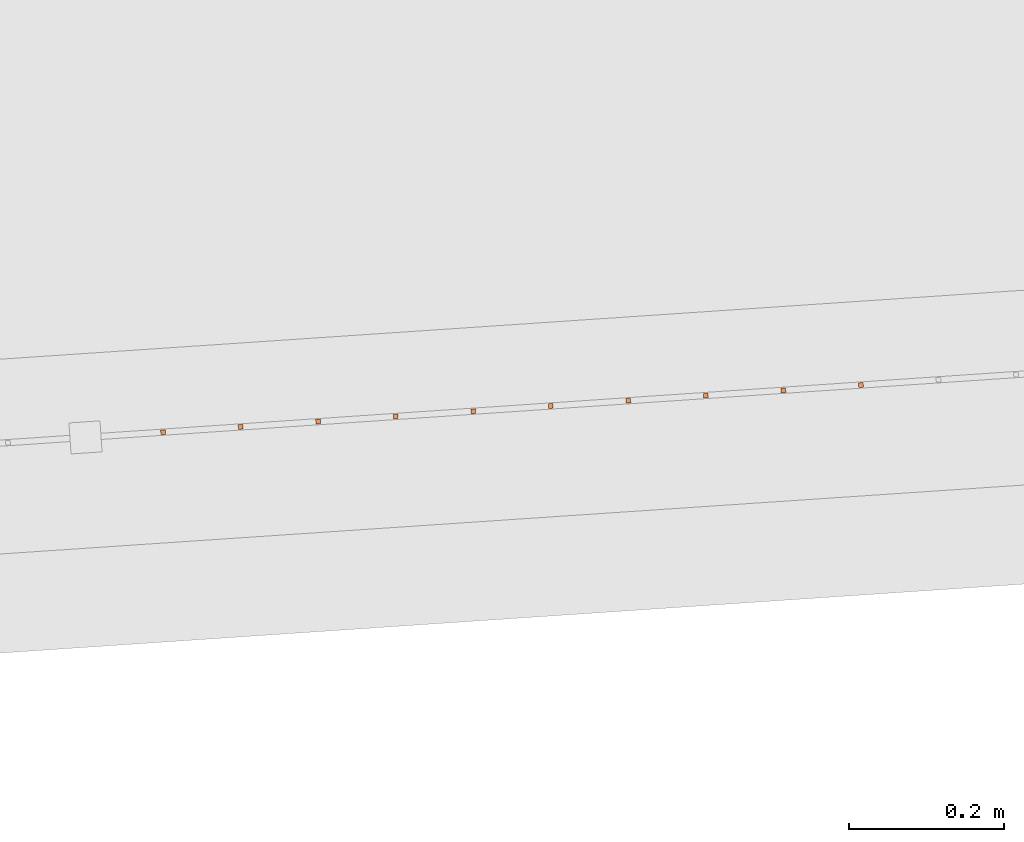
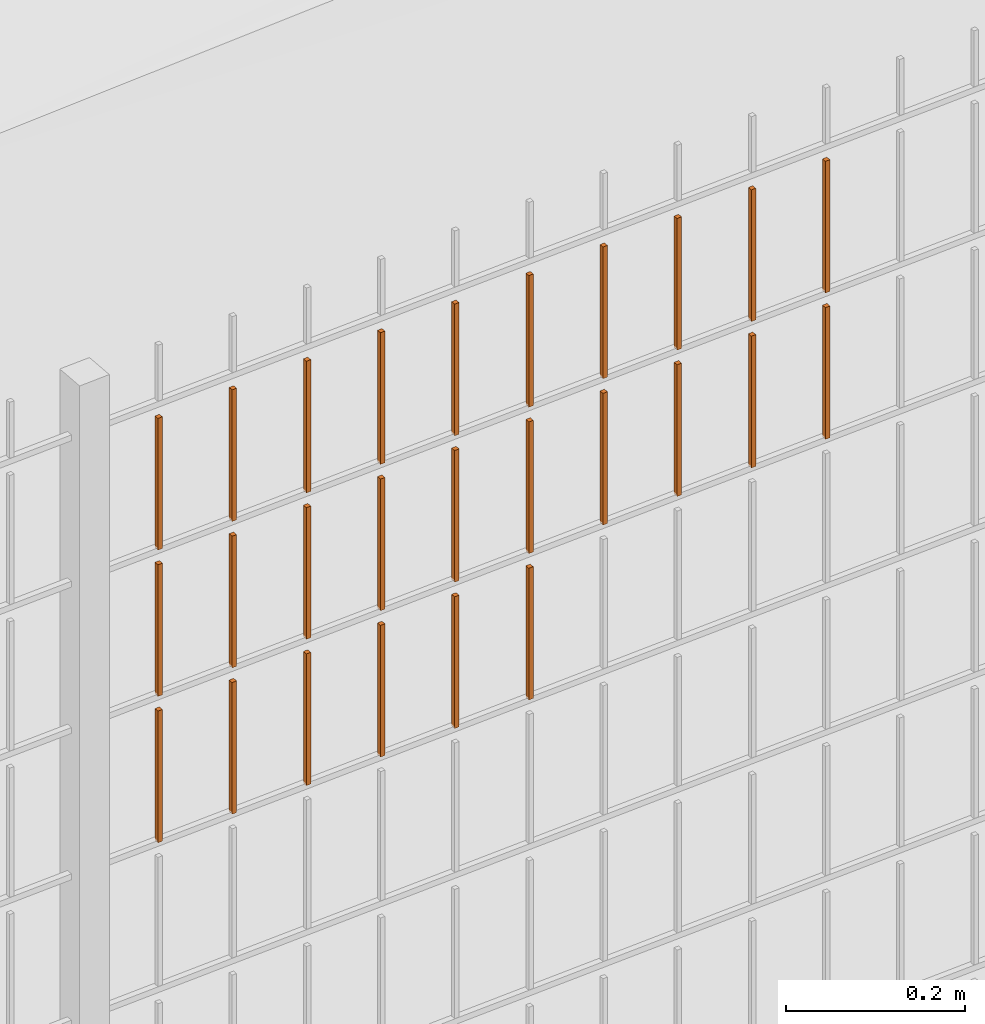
# One storey, part 294 of 1809: 26 proxies, 1 element without a shape of its own.
"""IFC2X3 building model written with IfcOpenShell, lengths in millimetres."""

import ifcopenshell
import ifcopenshell.guid

model = None  # the IFC model being written
_history = None  # IfcOwnerHistory: only IFC2X3 demands one
_inside = {}  # id of a spatial element -> (the spatial element, [elements in it])
_under = {}  # id of a project, library or spatial element -> (it, [spatial elements below it])
_declared = {}  # id of a project -> (the project, [libraries it declares])
_typed = {}  # id of a type object -> (the type object, [elements of that type])
_made_of = {}  # id of a material, layer set ... -> (it, [elements and type objects made of it])


def new_model(schema):
    """Start an empty IFC model of exactly this schema.

    Asked for "IFC4X3", IfcOpenShell would pick the latest addendum, in which some entities
    have other attributes; the version numbers below select the first issue.
    IFC2X3 requires an IfcOwnerHistory on every rooted entity: one is made here for all.
    """
    global model, _history
    if schema == "IFC4X3":
        model = ifcopenshell.file(schema_version=(4, 3, 0, 0))
    else:
        model = ifcopenshell.file(schema=schema)
    _inside.clear()
    _under.clear()
    _declared.clear()
    _typed.clear()
    _made_of.clear()
    _history = None
    if model.schema == "IFC2X3":
        org = make("IfcOrganization", Name="unknown")
        user = make(
            "IfcPersonAndOrganization",
            ThePerson=make("IfcPerson", FamilyName="unknown"),
            TheOrganization=org,
        )
        app = make(
            "IfcApplication",
            ApplicationDeveloper=org,
            Version="unknown",
            ApplicationFullName="unknown",
            ApplicationIdentifier="unknown",
        )
        _history = make(
            "IfcOwnerHistory",
            OwningUser=user,
            OwningApplication=app,
            ChangeAction="ADDED",
            CreationDate=0,
        )
    return model


def make(cls, **values):
    """One entity of the class cls with the attributes given. An attribute that is None is left unset."""
    return model.create_entity(
        cls, **{name: value for name, value in values.items() if value is not None}
    )


def entity(cls, *values):
    """Any entity or typed value of the class cls, its attributes in the order of the schema. None: left unset."""
    e = model.create_entity(cls)
    for i, value in enumerate(values):
        if value is not None:
            e[i] = value
    return e


def rooted(cls, **values):
    """An entity with a GlobalId (a new one), such as an element, a storey or a relation."""
    return make(cls, GlobalId=ifcopenshell.guid.new(), OwnerHistory=_history, **values)


def si_unit(unit_type, name, prefix=None):
    """IfcSIUnit, for example si_unit("LENGTHUNIT", "METRE", prefix="MILLI")."""
    return make("IfcSIUnit", UnitType=unit_type, Prefix=prefix, Name=name)


def converted_unit(unit_type, name, factor, base, dimensions=None, offset=None):
    """IfcConversionBasedUnit, such as the inch: factor (a typed value) times the base unit."""
    return make(
        "IfcConversionBasedUnit"
        if offset is None
        else "IfcConversionBasedUnitWithOffset",
        ConversionOffset=offset,
        Dimensions=None
        if dimensions is None
        else entity("IfcDimensionalExponents", *dimensions),
        UnitType=unit_type,
        Name=name,
        ConversionFactor=make(
            "IfcMeasureWithUnit", ValueComponent=factor, UnitComponent=base
        ),
    )


def derived_unit(unit_type, elements):
    """IfcDerivedUnit: a product of units, each with its exponent."""
    return make(
        "IfcDerivedUnit",
        Elements=[
            make("IfcDerivedUnitElement", Unit=unit, Exponent=power)
            for unit, power in elements
        ],
        UnitType=unit_type,
    )


def money_unit(currency):
    """IfcMonetaryUnit."""
    return make("IfcMonetaryUnit", Currency=currency)


def assignment(units):
    """IfcUnitAssignment: the units of a project."""
    return None if units is None else make("IfcUnitAssignment", Units=units)


def point(xyz):
    """IfcCartesianPoint."""
    return None if xyz is None else make("IfcCartesianPoint", Coordinates=xyz)


def direction(xyz):
    """IfcDirection."""
    return None if xyz is None else make("IfcDirection", DirectionRatios=xyz)


def frame(location, z_axis=None, x_axis=None):
    """IfcAxis2Placement3D, a coordinate frame: its origin and axes. An axis left out is left unset."""
    return make(
        "IfcAxis2Placement3D",
        Location=point(location),
        Axis=direction(z_axis),
        RefDirection=direction(x_axis),
    )


def origin_with_axes():
    """The frame at (0, 0, 0) with the z axis (0, 0, 1) and the x axis (1, 0, 0) written out."""
    return frame((0.0, 0.0, 0.0), z_axis=(0.0, 0.0, 1.0), x_axis=(1.0, 0.0, 0.0))


def place(relative_to, where):
    """IfcLocalPlacement: puts the frame where relative to a parent placement (None: the world)."""
    return make(
        "IfcLocalPlacement", PlacementRelTo=relative_to, RelativePlacement=where
    )


def context(
    kind, dimensions, precision=None, world=None, true_north=None, identifier=None
):
    """IfcGeometricRepresentationContext, for example the 3D "Model" context."""
    return make(
        "IfcGeometricRepresentationContext",
        ContextIdentifier=identifier,
        ContextType=kind,
        CoordinateSpaceDimension=dimensions,
        Precision=precision,
        WorldCoordinateSystem=world,
        TrueNorth=true_north,
    )


def subcontext(parent, identifier, kind, view, scale=None):
    """IfcGeometricRepresentationSubContext, for example "Body" below "Model"."""
    return make(
        "IfcGeometricRepresentationSubContext",
        ContextIdentifier=identifier,
        ContextType=kind,
        ParentContext=parent,
        TargetScale=scale,
        TargetView=view,
    )


def project(units=None, contexts=None):
    """IfcProject with its units and contexts."""
    return rooted(
        "IfcProject",
        Name="project",
        RepresentationContexts=contexts,
        UnitsInContext=assignment(units),
    )


def spatial(cls, under=None, at=None, **own):
    """A site, building, storey or space (cls), placed at a placement, below another one or the project."""
    s = rooted(cls, ObjectPlacement=at, **own)
    if under is not None:
        _under.setdefault(under.id(), (under, []))[1].append(s)
    return s


def faces_of(points, faces, orient=None, outer=None):
    """IfcFace entities. A face is a list of loops; a loop is a list of indices into points, from 0.

    orient and outer hold one flag for each loop. By default every Orientation is true, the
    first loop of a face is its IfcFaceOuterBound and the others are IfcFaceBound.
    """
    made = []
    for i, loops in enumerate(faces):
        bounds = []
        for j, loop in enumerate(loops):
            is_outer = j == 0 if outer is None else outer[i][j]
            bounds.append(
                make(
                    "IfcFaceOuterBound" if is_outer else "IfcFaceBound",
                    Bound=make("IfcPolyLoop", Polygon=[points[k] for k in loop]),
                    Orientation=True if orient is None else orient[i][j],
                )
            )
        made.append(make("IfcFace", Bounds=bounds))
    return made


def faceted_brep(points, faces, orient=None, outer=None, voids=None):
    """IfcFacetedBrep: a solid bounded by flat faces; with voids (closed shells), ...WithVoids."""
    shared = [point(p) for p in points]
    hull = make("IfcClosedShell", CfsFaces=faces_of(shared, faces, orient, outer))
    if voids is None:
        return make("IfcFacetedBrep", Outer=hull)
    return make(
        "IfcFacetedBrepWithVoids",
        Outer=hull,
        Voids=[
            make(cls, CfsFaces=faces_of(shared, fs, o, b)) for cls, fs, o, b in voids
        ],
    )


def shape(context_of_items, identifier, shape_type, items):
    """IfcShapeRepresentation: the items that make up one representation, for example the "Body"."""
    return make(
        "IfcShapeRepresentation",
        ContextOfItems=context_of_items,
        RepresentationIdentifier=identifier,
        RepresentationType=shape_type,
        Items=items,
    )


def source(mapping_origin, context_of_items, identifier, shape_type, items):
    """IfcRepresentationMap: a shape defined once, which mapped items show again and again."""
    return make(
        "IfcRepresentationMap",
        MappingOrigin=mapping_origin,
        MappedRepresentation=shape(context_of_items, identifier, shape_type, items),
    )


def transform(
    local_origin,
    x_axis=None,
    y_axis=None,
    z_axis=None,
    scale=None,
    scale2=None,
    scale3=None,
    uniform=True,
):
    """IfcCartesianTransformationOperator3D, or its non-uniform kind. x_axis, y_axis, z_axis: its Axis1, 2, 3."""
    if uniform:
        return make(
            "IfcCartesianTransformationOperator3D",
            Axis1=direction(x_axis),
            Axis2=direction(y_axis),
            LocalOrigin=point(local_origin),
            Scale=scale,
            Axis3=direction(z_axis),
        )
    return make(
        "IfcCartesianTransformationOperator3DnonUniform",
        Axis1=direction(x_axis),
        Axis2=direction(y_axis),
        LocalOrigin=point(local_origin),
        Scale=scale,
        Axis3=direction(z_axis),
        Scale2=scale2,
        Scale3=scale3,
    )


def mapped(mapping_source, mapping_target):
    """IfcMappedItem: shows the shape of a source again, moved by a transform."""
    return make(
        "IfcMappedItem", MappingSource=mapping_source, MappingTarget=mapping_target
    )


def material(Name=None, Category=None):
    """IfcMaterial."""
    return make("IfcMaterial", Name=Name, Category=Category)


def made_of(thing, what):
    """Note that an element or type object is made of a material, layer set ...; save() writes the relation."""
    if what is not None:
        _made_of.setdefault(what.id(), (what, []))[1].append(thing)
    return thing


def type_object(cls, material=None, **own):
    """A type object (cls), such as IfcWallType, which elements share."""
    return made_of(rooted(cls, **own), material)


def element(
    cls,
    number,
    at=None,
    inside=None,
    cuts=None,
    type_object=None,
    material=None,
    context=None,
    identifier="Body",
    shape_type=None,
    held_by="IfcProductDefinitionShape",
    body=None,
    shapes=None,
    **own,
):
    """One element of the class cls, such as IfcWall. Its Tag is "e" and its number.

    at: its placement. inside: the storey or other place that contains it. cuts: it is an
    opening in that element (IfcRelVoidsElement). A single representation is given by context,
    identifier, shape_type and body (its items); several are given by shapes. held_by: the class
    of the entity that holds the representations. save() writes the other relations.
    """
    e = rooted(cls, Tag="e%d" % number, ObjectPlacement=at, **own)
    if body is not None:
        shapes = [shape(context, identifier, shape_type, body)]
    if shapes is not None:
        e.Representation = make(held_by, Representations=shapes)
    if inside is not None:
        _inside.setdefault(inside.id(), (inside, []))[1].append(e)
    if cuts is not None:
        rooted(
            "IfcRelVoidsElement", RelatingBuildingElement=cuts, RelatedOpeningElement=e
        )
    if type_object is not None:
        _typed.setdefault(type_object.id(), (type_object, []))[1].append(e)
    return made_of(e, material)


def aggregate(whole, parts):
    """IfcRelAggregates: a whole, such as a stair, and the parts it consists of."""
    return rooted("IfcRelAggregates", RelatingObject=whole, RelatedObjects=parts)


def save(model, path):
    """Write the relations noted so far, then the file.

    IfcRelAggregates (storeys below a building ...), IfcRelContainedInSpatialStructure (elements
    in a storey), IfcRelDefinesByType, IfcRelAssociatesMaterial and IfcRelDeclares: one each for
    every whole, place, type object, material and project.
    """
    for whole, parts in _under.values():
        aggregate(whole, parts)
    for where, things in _inside.values():
        rooted(
            "IfcRelContainedInSpatialStructure",
            RelatedElements=things,
            RelatingStructure=where,
        )
    for kind, things in _typed.values():
        rooted("IfcRelDefinesByType", RelatedObjects=things, RelatingType=kind)
    for what, things in _made_of.values():
        rooted("IfcRelAssociatesMaterial", RelatedObjects=things, RelatingMaterial=what)
    for by, libraries in _declared.values():
        rooted("IfcRelDeclares", RelatingContext=by, RelatedDefinitions=libraries)
    model.write(path)


model = new_model("IFC2X3")

# Units and contexts
model_context = context("Model", 3, precision=0.01, world=origin_with_axes(), true_north=direction((0.0, 1.0)))
body_context = subcontext(model_context, "Body", "Model", "MODEL_VIEW")
ifc_project = project(units=[si_unit("LENGTHUNIT", "METRE", prefix="MILLI"), si_unit("AREAUNIT", "SQUARE_METRE"), si_unit("VOLUMEUNIT", "CUBIC_METRE"), converted_unit("PLANEANGLEUNIT", "DEGREE", entity("IfcPlaneAngleMeasure", 0.0174532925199), si_unit("PLANEANGLEUNIT", "RADIAN"), dimensions=[0, 0, 0, 0, 0, 0, 0]), si_unit("SOLIDANGLEUNIT", "STERADIAN"), money_unit("EUR"), converted_unit("TIMEUNIT", "Year", entity("IfcTimeMeasure", 31556926.0), si_unit("TIMEUNIT", "SECOND"), dimensions=[0, 0, 1, 0, 0, 0, 0]), si_unit("MASSUNIT", "GRAM", prefix="KILO"), si_unit("THERMODYNAMICTEMPERATUREUNIT", "DEGREE_CELSIUS"), si_unit("LUMINOUSINTENSITYUNIT", "LUMEN"), si_unit("ENERGYUNIT", "JOULE", prefix="MEGA"), derived_unit("THERMALCONDUCTANCEUNIT", [(si_unit("POWERUNIT", "WATT"), 1), (si_unit("LENGTHUNIT", "METRE"), -1), (si_unit("THERMODYNAMICTEMPERATUREUNIT", "KELVIN"), -1)]), derived_unit("SPECIFICHEATCAPACITYUNIT", [(si_unit("ENERGYUNIT", "JOULE"), 1), (si_unit("MASSUNIT", "GRAM", prefix="KILO"), -1), (si_unit("THERMODYNAMICTEMPERATUREUNIT", "KELVIN"), -1)]), derived_unit("MASSDENSITYUNIT", [(si_unit("MASSUNIT", "GRAM", prefix="KILO"), 1), (si_unit("VOLUMEUNIT", "CUBIC_METRE"), -1)])], contexts=[model_context])

# Site, building, storey
site_placement = place(None, origin_with_axes())
site = spatial("IfcSite", under=ifc_project, at=site_placement, Name="Politse- ja Piirivalveameti ning Päästeameti ühishoone", CompositionType="ELEMENT")
building_placement = place(site_placement, origin_with_axes())
building = spatial("IfcBuilding", under=site, at=building_placement, Name="Politse- ja Piirivalveameti ning Päästeameti ühishoone", CompositionType="ELEMENT")
storey_placement = place(building_placement, origin_with_axes())
storey = spatial("IfcBuildingStorey", under=building, at=storey_placement, Name="Esimene korrus", CompositionType="ELEMENT", Elevation=0.0)

# Proxies
building_element_proxy_type_1 = type_object("IfcBuildingElementProxyType", Name="Railing Type", PredefinedType="NOTDEFINED")
proxy_1_placement = place(storey_placement, frame((89252.001212, -29183.4766571, 203.661247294), z_axis=(0.0, 0.0, 1.0), x_axis=(1.0, 0.0, 0.0)))
proxy_1 = element("IfcBuildingElementProxy", 1, at=proxy_1_placement, inside=storey, type_object=building_element_proxy_type_1, Name="PIIRDEAED")
ifc_material = material(Name="ET-03_Raud")
building_element_proxy_type_2 = type_object("IfcBuildingElementProxyType", Name="IfcBuildingElementProxy", PredefinedType="NOTDEFINED")
shared_shape_1 = source(origin_with_axes(), body_context, "Body", "Brep", [
    faceted_brep([(3.0, 3.0, -0.000752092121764), (-3.0, 3.0, -0.000752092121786), (-3.0, 3.0, 179.99926046), (3.0, 3.0, 179.99926046), (3.0, -3.0, 0.000752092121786), (-3.0, -3.0, 0.000752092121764), (-3.0, -3.0, 180.000764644), (3.0, -3.0, 180.000764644)], [[[0, 1, 2, 3]], [[0, 4, 5, 1]], [[1, 5, 6, 2]], [[3, 2, 6, 7]], [[4, 0, 3, 7]], [[5, 4, 7, 6]]]),
])
proxy_2_placement = place(proxy_1_placement, frame((-46420.910951, -20433.3321101, 1615.57026702), z_axis=(0.0, 0.0, 1.0), x_axis=(1.0, 0.0, 0.0)))
proxy_2 = element("IfcBuildingElementProxy", 2, at=proxy_2_placement, type_object=building_element_proxy_type_2, material=ifc_material, Name="BALUSTER - 001", context=body_context, shape_type="MappedRepresentation", body=[
    mapped(shared_shape_1, transform((0.0, 0.0, 0.0), x_axis=(-0.0673926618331, 0.997726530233, 0.0), y_axis=(-0.997726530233, -0.0673926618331, 0.0), z_axis=(0.0, 0.0, 1.0))),
])
shared_shape_2 = source(origin_with_axes(), body_context, "Body", "Brep", [
    faceted_brep([(3.0, 3.0, -0.000752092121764), (-3.0, 3.0, -0.000752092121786), (-3.0, 3.0, 179.99926046), (3.0, 3.0, 179.99926046), (3.0, -3.0, 0.000752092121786), (-3.0, -3.0, 0.000752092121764), (-3.0, -3.0, 180.000764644), (3.0, -3.0, 180.000764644)], [[[0, 1, 2, 3]], [[0, 4, 5, 1]], [[1, 5, 6, 2]], [[3, 2, 6, 7]], [[4, 0, 3, 7]], [[5, 4, 7, 6]]]),
])
proxy_3_placement = place(proxy_1_placement, frame((-46420.910951, -20433.3321101, 1815.57026702), z_axis=(0.0, 0.0, 1.0), x_axis=(1.0, 0.0, 0.0)))
proxy_3 = element("IfcBuildingElementProxy", 3, at=proxy_3_placement, type_object=building_element_proxy_type_2, material=ifc_material, Name="BALUSTER - 001", context=body_context, shape_type="MappedRepresentation", body=[
    mapped(shared_shape_2, transform((0.0, 0.0, 0.0), x_axis=(-0.0673926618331, 0.997726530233, 0.0), y_axis=(-0.997726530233, -0.0673926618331, 0.0), z_axis=(0.0, 0.0, 1.0))),
])
shared_shape_3 = source(origin_with_axes(), body_context, "Body", "Brep", [
    faceted_brep([(3.0, 3.0, -0.000752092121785), (-3.0, 3.0, -0.000752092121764), (-3.0, 3.0, 179.99926046), (3.0, 3.0, 179.99926046), (3.0, -3.0, 0.000752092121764), (-3.0, -3.0, 0.000752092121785), (-3.0, -3.0, 180.000764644), (3.0, -3.0, 180.000764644)], [[[0, 1, 2, 3]], [[0, 4, 5, 1]], [[1, 5, 6, 2]], [[3, 2, 6, 7]], [[4, 0, 3, 7]], [[5, 4, 7, 6]]]),
])
proxy_4_placement = place(proxy_1_placement, frame((-46820.0015631, -20460.2891749, 1415.46998807), z_axis=(0.0, 0.0, 1.0), x_axis=(1.0, 0.0, 0.0)))
proxy_4 = element("IfcBuildingElementProxy", 4, at=proxy_4_placement, type_object=building_element_proxy_type_2, material=ifc_material, Name="BALUSTER - 001", context=body_context, shape_type="MappedRepresentation", body=[
    mapped(shared_shape_3, transform((0.0, 0.0, 0.0), x_axis=(-0.0673926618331, 0.997726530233, 0.0), y_axis=(-0.997726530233, -0.0673926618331, 0.0), z_axis=(0.0, 0.0, 1.0))),
])
proxy_5_placement = place(proxy_1_placement, frame((-46820.0015631, -20460.2891749, 1615.46998807), z_axis=(0.0, 0.0, 1.0), x_axis=(1.0, 0.0, 0.0)))
proxy_5 = element("IfcBuildingElementProxy", 5, at=proxy_5_placement, type_object=building_element_proxy_type_2, material=ifc_material, Name="BALUSTER - 001", context=body_context, shape_type="MappedRepresentation", body=[
    mapped(shared_shape_3, transform((0.0, 0.0, 0.0), x_axis=(-0.0673926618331, 0.997726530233, 0.0), y_axis=(-0.997726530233, -0.0673926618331, 0.0), z_axis=(0.0, 0.0, 1.0))),
])
shared_shape_4 = source(origin_with_axes(), body_context, "Body", "Brep", [
    faceted_brep([(3.0, 3.0, -0.000752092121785), (-3.0, 3.0, -0.000752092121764), (-3.0, 3.0, 179.99926046), (3.0, 3.0, 179.99926046), (3.0, -3.0, 0.000752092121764), (-3.0, -3.0, 0.000752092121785), (-3.0, -3.0, 180.000764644), (3.0, -3.0, 180.000764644)], [[[0, 1, 2, 3]], [[0, 4, 5, 1]], [[1, 5, 6, 2]], [[3, 2, 6, 7]], [[4, 0, 3, 7]], [[5, 4, 7, 6]]]),
])
proxy_6_placement = place(proxy_1_placement, frame((-46820.0015631, -20460.2891749, 1815.46998807), z_axis=(0.0, 0.0, 1.0), x_axis=(1.0, 0.0, 0.0)))
proxy_6 = element("IfcBuildingElementProxy", 6, at=proxy_6_placement, type_object=building_element_proxy_type_2, material=ifc_material, Name="BALUSTER - 001", context=body_context, shape_type="MappedRepresentation", body=[
    mapped(shared_shape_4, transform((0.0, 0.0, 0.0), x_axis=(-0.0673926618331, 0.997726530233, 0.0), y_axis=(-0.997726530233, -0.0673926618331, 0.0), z_axis=(0.0, 0.0, 1.0))),
])
shared_shape_5 = source(origin_with_axes(), body_context, "Body", "Brep", [
    faceted_brep([(3.0, 3.0, -0.000752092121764), (-3.0, 3.0, -0.000752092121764), (-3.0, 3.0, 179.99926046), (3.0, 3.0, 179.99926046), (3.0, -3.0, 0.000752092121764), (-3.0, -3.0, 0.000752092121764), (-3.0, -3.0, 180.000764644), (3.0, -3.0, 180.000764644)], [[[0, 1, 2, 3]], [[0, 4, 5, 1]], [[1, 5, 6, 2]], [[3, 2, 6, 7]], [[4, 0, 3, 7]], [[5, 4, 7, 6]]]),
])
proxy_7_placement = place(proxy_1_placement, frame((-47019.5468692, -20473.7677072, 1815.41984859), z_axis=(0.0, 0.0, 1.0), x_axis=(1.0, 0.0, 0.0)))
proxy_7 = element("IfcBuildingElementProxy", 7, at=proxy_7_placement, type_object=building_element_proxy_type_2, material=ifc_material, Name="BALUSTER - 001", context=body_context, shape_type="MappedRepresentation", body=[
    mapped(shared_shape_5, transform((0.0, 0.0, 0.0), x_axis=(-0.0673926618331, 0.997726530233, 0.0), y_axis=(-0.997726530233, -0.0673926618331, 0.0), z_axis=(0.0, 0.0, 1.0))),
])
shared_shape_6 = source(origin_with_axes(), body_context, "Body", "Brep", [
    faceted_brep([(3.0, 3.0, -0.000752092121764), (-3.0, 3.0, -0.000752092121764), (-3.0, 3.0, 179.99926046), (3.0, 3.0, 179.99926046), (3.0, -3.0, 0.000752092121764), (-3.0, -3.0, 0.000752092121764), (-3.0, -3.0, 180.000764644), (3.0, -3.0, 180.000764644)], [[[0, 1, 2, 3]], [[0, 4, 5, 1]], [[1, 5, 6, 2]], [[3, 2, 6, 7]], [[4, 0, 3, 7]], [[5, 4, 7, 6]]]),
])
proxy_8_placement = place(proxy_1_placement, frame((-46321.138298, -20426.592844, 1615.59533676), z_axis=(0.0, 0.0, 1.0), x_axis=(1.0, 0.0, 0.0)))
proxy_8 = element("IfcBuildingElementProxy", 8, at=proxy_8_placement, type_object=building_element_proxy_type_2, material=ifc_material, Name="BALUSTER - 001", context=body_context, shape_type="MappedRepresentation", body=[
    mapped(shared_shape_6, transform((0.0, 0.0, 0.0), x_axis=(-0.0673926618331, 0.997726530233, 0.0), y_axis=(-0.997726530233, -0.0673926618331, 0.0), z_axis=(0.0, 0.0, 1.0))),
])
shared_shape_7 = source(origin_with_axes(), body_context, "Body", "Brep", [
    faceted_brep([(3.0, 3.0, -0.000752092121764), (-3.0, 3.0, -0.000752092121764), (-3.0, 3.0, 179.99926046), (3.0, 3.0, 179.99926046), (3.0, -3.0, 0.000752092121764), (-3.0, -3.0, 0.000752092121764), (-3.0, -3.0, 180.000764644), (3.0, -3.0, 180.000764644)], [[[0, 1, 2, 3]], [[0, 4, 5, 1]], [[1, 5, 6, 2]], [[3, 2, 6, 7]], [[4, 0, 3, 7]], [[5, 4, 7, 6]]]),
])
proxy_9_placement = place(proxy_1_placement, frame((-46321.138298, -20426.592844, 1815.59533676), z_axis=(0.0, 0.0, 1.0), x_axis=(1.0, 0.0, 0.0)))
proxy_9 = element("IfcBuildingElementProxy", 9, at=proxy_9_placement, type_object=building_element_proxy_type_2, material=ifc_material, Name="BALUSTER - 001", context=body_context, shape_type="MappedRepresentation", body=[
    mapped(shared_shape_7, transform((0.0, 0.0, 0.0), x_axis=(-0.0673926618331, 0.997726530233, 0.0), y_axis=(-0.997726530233, -0.0673926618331, 0.0), z_axis=(0.0, 0.0, 1.0))),
])
shared_shape_8 = source(origin_with_axes(), body_context, "Body", "Brep", [
    faceted_brep([(3.0, 3.0, -0.000752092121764), (-3.0, 3.0, -0.000752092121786), (-3.0, 3.0, 179.99926046), (3.0, 3.0, 179.99926046), (3.0, -3.0, 0.000752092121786), (-3.0, -3.0, 0.000752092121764), (-3.0, -3.0, 180.000764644), (3.0, -3.0, 180.000764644)], [[[0, 1, 2, 3]], [[0, 4, 5, 1]], [[1, 5, 6, 2]], [[3, 2, 6, 7]], [[4, 0, 3, 7]], [[5, 4, 7, 6]]]),
])
proxy_10_placement = place(proxy_1_placement, frame((-46720.2289101, -20453.5499087, 1815.49505781), z_axis=(0.0, 0.0, 1.0), x_axis=(1.0, 0.0, 0.0)))
proxy_10 = element("IfcBuildingElementProxy", 10, at=proxy_10_placement, type_object=building_element_proxy_type_2, material=ifc_material, Name="BALUSTER - 001", context=body_context, shape_type="MappedRepresentation", body=[
    mapped(shared_shape_8, transform((0.0, 0.0, 0.0), x_axis=(-0.0673926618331, 0.997726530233, 0.0), y_axis=(-0.997726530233, -0.0673926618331, 0.0), z_axis=(0.0, 0.0, 1.0))),
])
shared_shape_9 = source(origin_with_axes(), body_context, "Body", "Brep", [
    faceted_brep([(3.0, 3.0, -0.000752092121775), (-3.0, 3.0, -0.000752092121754), (-3.0, 3.0, 179.99926046), (3.0, 3.0, 179.99926046), (3.0, -3.0, 0.000752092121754), (-3.0, -3.0, 0.000752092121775), (-3.0, -3.0, 180.000764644), (3.0, -3.0, 180.000764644)], [[[0, 1, 2, 3]], [[0, 4, 5, 1]], [[1, 5, 6, 2]], [[3, 2, 6, 7]], [[4, 0, 3, 7]], [[5, 4, 7, 6]]]),
])
proxy_11_placement = place(proxy_1_placement, frame((-46520.683604, -20440.0713763, 1815.54519728), z_axis=(0.0, 0.0, 1.0), x_axis=(1.0, 0.0, 0.0)))
proxy_11 = element("IfcBuildingElementProxy", 11, at=proxy_11_placement, type_object=building_element_proxy_type_2, material=ifc_material, Name="BALUSTER - 001", context=body_context, shape_type="MappedRepresentation", body=[
    mapped(shared_shape_9, transform((0.0, 0.0, 0.0), x_axis=(-0.0673926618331, 0.997726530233, 0.0), y_axis=(-0.997726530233, -0.0673926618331, 0.0), z_axis=(0.0, 0.0, 1.0))),
])
shared_shape_10 = source(origin_with_axes(), body_context, "Body", "Brep", [
    faceted_brep([(3.0, 3.0, -0.000752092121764), (-3.0, 3.0, -0.000752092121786), (-3.0, 3.0, 179.99926046), (3.0, 3.0, 179.99926046), (3.0, -3.0, 0.000752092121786), (-3.0, -3.0, 0.000752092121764), (-3.0, -3.0, 180.000764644), (3.0, -3.0, 180.000764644)], [[[0, 1, 2, 3]], [[0, 4, 5, 1]], [[1, 5, 6, 2]], [[3, 2, 6, 7]], [[4, 0, 3, 7]], [[5, 4, 7, 6]]]),
])
proxy_12_placement = place(proxy_1_placement, frame((-46720.2289101, -20453.5499087, 1415.49505781), z_axis=(0.0, 0.0, 1.0), x_axis=(1.0, 0.0, 0.0)))
proxy_12 = element("IfcBuildingElementProxy", 12, at=proxy_12_placement, type_object=building_element_proxy_type_2, material=ifc_material, Name="BALUSTER - 001", context=body_context, shape_type="MappedRepresentation", body=[
    mapped(shared_shape_10, transform((0.0, 0.0, 0.0), x_axis=(-0.0673926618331, 0.997726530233, 0.0), y_axis=(-0.997726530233, -0.0673926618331, 0.0), z_axis=(0.0, 0.0, 1.0))),
])
proxy_13_placement = place(proxy_1_placement, frame((-46720.2289101, -20453.5499087, 1615.49505781), z_axis=(0.0, 0.0, 1.0), x_axis=(1.0, 0.0, 0.0)))
proxy_13 = element("IfcBuildingElementProxy", 13, at=proxy_13_placement, type_object=building_element_proxy_type_2, material=ifc_material, Name="BALUSTER - 001", context=body_context, shape_type="MappedRepresentation", body=[
    mapped(shared_shape_10, transform((0.0, 0.0, 0.0), x_axis=(-0.0673926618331, 0.997726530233, 0.0), y_axis=(-0.997726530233, -0.0673926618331, 0.0), z_axis=(0.0, 0.0, 1.0))),
])
shared_shape_11 = source(origin_with_axes(), body_context, "Body", "Brep", [
    faceted_brep([(3.0, 3.0, -0.000752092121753), (-3.0, 3.0, -0.000752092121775), (-3.0, 3.0, 179.99926046), (3.0, 3.0, 179.99926046), (3.0, -3.0, 0.000752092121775), (-3.0, -3.0, 0.000752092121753), (-3.0, -3.0, 180.000764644), (3.0, -3.0, 180.000764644)], [[[0, 1, 2, 3]], [[0, 4, 5, 1]], [[1, 5, 6, 2]], [[3, 2, 6, 7]], [[4, 0, 3, 7]], [[5, 4, 7, 6]]]),
])
proxy_14_placement = place(proxy_1_placement, frame((-46919.7742161, -20467.0284411, 1415.44491833), z_axis=(0.0, 0.0, 1.0), x_axis=(1.0, 0.0, 0.0)))
proxy_14 = element("IfcBuildingElementProxy", 14, at=proxy_14_placement, type_object=building_element_proxy_type_2, material=ifc_material, Name="BALUSTER - 001", context=body_context, shape_type="MappedRepresentation", body=[
    mapped(shared_shape_11, transform((0.0, 0.0, 0.0), x_axis=(-0.0673926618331, 0.997726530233, 0.0), y_axis=(-0.997726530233, -0.0673926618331, 0.0), z_axis=(0.0, 0.0, 1.0))),
])
proxy_15_placement = place(proxy_1_placement, frame((-46919.7742161, -20467.0284411, 1615.44491833), z_axis=(0.0, 0.0, 1.0), x_axis=(1.0, 0.0, 0.0)))
proxy_15 = element("IfcBuildingElementProxy", 15, at=proxy_15_placement, type_object=building_element_proxy_type_2, material=ifc_material, Name="BALUSTER - 001", context=body_context, shape_type="MappedRepresentation", body=[
    mapped(shared_shape_11, transform((0.0, 0.0, 0.0), x_axis=(-0.0673926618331, 0.997726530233, 0.0), y_axis=(-0.997726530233, -0.0673926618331, 0.0), z_axis=(0.0, 0.0, 1.0))),
])
shared_shape_12 = source(origin_with_axes(), body_context, "Body", "Brep", [
    faceted_brep([(3.0, 3.0, -0.000752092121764), (-3.0, 3.0, -0.000752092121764), (-3.0, 3.0, 179.99926046), (3.0, 3.0, 179.99926046), (3.0, -3.0, 0.000752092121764), (-3.0, -3.0, 0.000752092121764), (-3.0, -3.0, 180.000764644), (3.0, -3.0, 180.000764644)], [[[0, 1, 2, 3]], [[0, 4, 5, 1]], [[1, 5, 6, 2]], [[3, 2, 6, 7]], [[4, 0, 3, 7]], [[5, 4, 7, 6]]]),
])
proxy_16_placement = place(proxy_1_placement, frame((-46221.365645, -20419.8535778, 1615.62040649), z_axis=(0.0, 0.0, 1.0), x_axis=(1.0, 0.0, 0.0)))
proxy_16 = element("IfcBuildingElementProxy", 16, at=proxy_16_placement, type_object=building_element_proxy_type_2, material=ifc_material, Name="BALUSTER - 001", context=body_context, shape_type="MappedRepresentation", body=[
    mapped(shared_shape_12, transform((0.0, 0.0, 0.0), x_axis=(-0.0673926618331, 0.997726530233, 0.0), y_axis=(-0.997726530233, -0.0673926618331, 0.0), z_axis=(0.0, 0.0, 1.0))),
])
shared_shape_13 = source(origin_with_axes(), body_context, "Body", "Brep", [
    faceted_brep([(3.0, 3.0, -0.000752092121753), (-3.0, 3.0, -0.000752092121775), (-3.0, 3.0, 179.99926046), (3.0, 3.0, 179.99926046), (3.0, -3.0, 0.000752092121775), (-3.0, -3.0, 0.000752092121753), (-3.0, -3.0, 180.000764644), (3.0, -3.0, 180.000764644)], [[[0, 1, 2, 3]], [[0, 4, 5, 1]], [[1, 5, 6, 2]], [[3, 2, 6, 7]], [[4, 0, 3, 7]], [[5, 4, 7, 6]]]),
])
proxy_17_placement = place(proxy_1_placement, frame((-46919.7742161, -20467.0284411, 1815.44491833), z_axis=(0.0, 0.0, 1.0), x_axis=(1.0, 0.0, 0.0)))
proxy_17 = element("IfcBuildingElementProxy", 17, at=proxy_17_placement, type_object=building_element_proxy_type_2, material=ifc_material, Name="BALUSTER - 001", context=body_context, shape_type="MappedRepresentation", body=[
    mapped(shared_shape_13, transform((0.0, 0.0, 0.0), x_axis=(-0.0673926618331, 0.997726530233, 0.0), y_axis=(-0.997726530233, -0.0673926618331, 0.0), z_axis=(0.0, 0.0, 1.0))),
])
shared_shape_14 = source(origin_with_axes(), body_context, "Body", "Brep", [
    faceted_brep([(3.0, 3.0, -0.000752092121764), (-3.0, 3.0, -0.000752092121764), (-3.0, 3.0, 179.99926046), (3.0, 3.0, 179.99926046), (3.0, -3.0, 0.000752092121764), (-3.0, -3.0, 0.000752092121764), (-3.0, -3.0, 180.000764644), (3.0, -3.0, 180.000764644)], [[[0, 1, 2, 3]], [[0, 4, 5, 1]], [[1, 5, 6, 2]], [[3, 2, 6, 7]], [[4, 0, 3, 7]], [[5, 4, 7, 6]]]),
])
proxy_18_placement = place(proxy_1_placement, frame((-46221.365645, -20419.8535778, 1815.62040649), z_axis=(0.0, 0.0, 1.0), x_axis=(1.0, 0.0, 0.0)))
proxy_18 = element("IfcBuildingElementProxy", 18, at=proxy_18_placement, type_object=building_element_proxy_type_2, material=ifc_material, Name="BALUSTER - 001", context=body_context, shape_type="MappedRepresentation", body=[
    mapped(shared_shape_14, transform((0.0, 0.0, 0.0), x_axis=(-0.0673926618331, 0.997726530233, 0.0), y_axis=(-0.997726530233, -0.0673926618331, 0.0), z_axis=(0.0, 0.0, 1.0))),
])
shared_shape_15 = source(origin_with_axes(), body_context, "Body", "Brep", [
    faceted_brep([(3.0, 3.0, -0.000752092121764), (-3.0, 3.0, -0.000752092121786), (-3.0, 3.0, 179.99926046), (3.0, 3.0, 179.99926046), (3.0, -3.0, 0.000752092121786), (-3.0, -3.0, 0.000752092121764), (-3.0, -3.0, 180.000764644), (3.0, -3.0, 180.000764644)], [[[0, 1, 2, 3]], [[0, 4, 5, 1]], [[1, 5, 6, 2]], [[3, 2, 6, 7]], [[4, 0, 3, 7]], [[5, 4, 7, 6]]]),
])
proxy_19_placement = place(proxy_1_placement, frame((-46620.4562571, -20446.8106425, 1415.52012754), z_axis=(0.0, 0.0, 1.0), x_axis=(1.0, 0.0, 0.0)))
proxy_19 = element("IfcBuildingElementProxy", 19, at=proxy_19_placement, type_object=building_element_proxy_type_2, material=ifc_material, Name="BALUSTER - 001", context=body_context, shape_type="MappedRepresentation", body=[
    mapped(shared_shape_15, transform((0.0, 0.0, 0.0), x_axis=(-0.0673926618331, 0.997726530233, 0.0), y_axis=(-0.997726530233, -0.0673926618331, 0.0), z_axis=(0.0, 0.0, 1.0))),
])
proxy_20_placement = place(proxy_1_placement, frame((-46620.4562571, -20446.8106425, 1615.52012754), z_axis=(0.0, 0.0, 1.0), x_axis=(1.0, 0.0, 0.0)))
proxy_20 = element("IfcBuildingElementProxy", 20, at=proxy_20_placement, type_object=building_element_proxy_type_2, material=ifc_material, Name="BALUSTER - 001", context=body_context, shape_type="MappedRepresentation", body=[
    mapped(shared_shape_15, transform((0.0, 0.0, 0.0), x_axis=(-0.0673926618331, 0.997726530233, 0.0), y_axis=(-0.997726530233, -0.0673926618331, 0.0), z_axis=(0.0, 0.0, 1.0))),
])
shared_shape_16 = source(origin_with_axes(), body_context, "Body", "Brep", [
    faceted_brep([(3.0, 3.0, -0.000752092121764), (-3.0, 3.0, -0.000752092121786), (-3.0, 3.0, 179.99926046), (3.0, 3.0, 179.99926046), (3.0, -3.0, 0.000752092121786), (-3.0, -3.0, 0.000752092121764), (-3.0, -3.0, 180.000764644), (3.0, -3.0, 180.000764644)], [[[0, 1, 2, 3]], [[0, 4, 5, 1]], [[1, 5, 6, 2]], [[3, 2, 6, 7]], [[4, 0, 3, 7]], [[5, 4, 7, 6]]]),
])
proxy_21_placement = place(proxy_1_placement, frame((-46620.4562571, -20446.8106425, 1815.52012754), z_axis=(0.0, 0.0, 1.0), x_axis=(1.0, 0.0, 0.0)))
proxy_21 = element("IfcBuildingElementProxy", 21, at=proxy_21_placement, type_object=building_element_proxy_type_2, material=ifc_material, Name="BALUSTER - 001", context=body_context, shape_type="MappedRepresentation", body=[
    mapped(shared_shape_16, transform((0.0, 0.0, 0.0), x_axis=(-0.0673926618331, 0.997726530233, 0.0), y_axis=(-0.997726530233, -0.0673926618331, 0.0), z_axis=(0.0, 0.0, 1.0))),
])
shared_shape_17 = source(origin_with_axes(), body_context, "Body", "Brep", [
    faceted_brep([(3.0, 3.0, -0.000752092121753), (-3.0, 3.0, -0.000752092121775), (-3.0, 3.0, 179.99926046), (3.0, 3.0, 179.99926046), (3.0, -3.0, 0.000752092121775), (-3.0, -3.0, 0.000752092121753), (-3.0, -3.0, 180.000764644), (3.0, -3.0, 180.000764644)], [[[0, 1, 2, 3]], [[0, 4, 5, 1]], [[1, 5, 6, 2]], [[3, 2, 6, 7]], [[4, 0, 3, 7]], [[5, 4, 7, 6]]]),
])
proxy_22_placement = place(proxy_1_placement, frame((-47119.3195222, -20480.5069734, 1815.39477886), z_axis=(0.0, 0.0, 1.0), x_axis=(1.0, 0.0, 0.0)))
proxy_22 = element("IfcBuildingElementProxy", 22, at=proxy_22_placement, type_object=building_element_proxy_type_2, material=ifc_material, Name="BALUSTER - 001", context=body_context, shape_type="MappedRepresentation", body=[
    mapped(shared_shape_17, transform((0.0, 0.0, 0.0), x_axis=(-0.0673926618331, 0.997726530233, 0.0), y_axis=(-0.997726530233, -0.0673926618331, 0.0), z_axis=(0.0, 0.0, 1.0))),
])
shared_shape_18 = source(origin_with_axes(), body_context, "Body", "Brep", [
    faceted_brep([(3.0, 3.0, -0.000752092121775), (-3.0, 3.0, -0.000752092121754), (-3.0, 3.0, 179.99926046), (3.0, 3.0, 179.99926046), (3.0, -3.0, 0.000752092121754), (-3.0, -3.0, 0.000752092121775), (-3.0, -3.0, 180.000764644), (3.0, -3.0, 180.000764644)], [[[0, 1, 2, 3]], [[0, 4, 5, 1]], [[1, 5, 6, 2]], [[3, 2, 6, 7]], [[4, 0, 3, 7]], [[5, 4, 7, 6]]]),
])
proxy_23_placement = place(proxy_1_placement, frame((-46520.683604, -20440.0713763, 1615.54519728), z_axis=(0.0, 0.0, 1.0), x_axis=(1.0, 0.0, 0.0)))
proxy_23 = element("IfcBuildingElementProxy", 23, at=proxy_23_placement, type_object=building_element_proxy_type_2, material=ifc_material, Name="BALUSTER - 001", context=body_context, shape_type="MappedRepresentation", body=[
    mapped(shared_shape_18, transform((0.0, 0.0, 0.0), x_axis=(-0.0673926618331, 0.997726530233, 0.0), y_axis=(-0.997726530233, -0.0673926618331, 0.0), z_axis=(0.0, 0.0, 1.0))),
])
shared_shape_19 = source(origin_with_axes(), body_context, "Body", "Brep", [
    faceted_brep([(3.0, 3.0, -0.000752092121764), (-3.0, 3.0, -0.000752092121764), (-3.0, 3.0, 179.99926046), (3.0, 3.0, 179.99926046), (3.0, -3.0, 0.000752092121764), (-3.0, -3.0, 0.000752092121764), (-3.0, -3.0, 180.000764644), (3.0, -3.0, 180.000764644)], [[[0, 1, 2, 3]], [[0, 4, 5, 1]], [[1, 5, 6, 2]], [[3, 2, 6, 7]], [[4, 0, 3, 7]], [[5, 4, 7, 6]]]),
])
proxy_24_placement = place(proxy_1_placement, frame((-47019.5468692, -20473.7677072, 1415.41984859), z_axis=(0.0, 0.0, 1.0), x_axis=(1.0, 0.0, 0.0)))
proxy_24 = element("IfcBuildingElementProxy", 24, at=proxy_24_placement, type_object=building_element_proxy_type_2, material=ifc_material, Name="BALUSTER - 001", context=body_context, shape_type="MappedRepresentation", body=[
    mapped(shared_shape_19, transform((0.0, 0.0, 0.0), x_axis=(-0.0673926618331, 0.997726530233, 0.0), y_axis=(-0.997726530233, -0.0673926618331, 0.0), z_axis=(0.0, 0.0, 1.0))),
])
proxy_25_placement = place(proxy_1_placement, frame((-47019.5468692, -20473.7677072, 1615.41984859), z_axis=(0.0, 0.0, 1.0), x_axis=(1.0, 0.0, 0.0)))
proxy_25 = element("IfcBuildingElementProxy", 25, at=proxy_25_placement, type_object=building_element_proxy_type_2, material=ifc_material, Name="BALUSTER - 001", context=body_context, shape_type="MappedRepresentation", body=[
    mapped(shared_shape_19, transform((0.0, 0.0, 0.0), x_axis=(-0.0673926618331, 0.997726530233, 0.0), y_axis=(-0.997726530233, -0.0673926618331, 0.0), z_axis=(0.0, 0.0, 1.0))),
])
shared_shape_20 = source(origin_with_axes(), body_context, "Body", "Brep", [
    faceted_brep([(3.0, 3.0, -0.000752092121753), (-3.0, 3.0, -0.000752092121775), (-3.0, 3.0, 179.99926046), (3.0, 3.0, 179.99926046), (3.0, -3.0, 0.000752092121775), (-3.0, -3.0, 0.000752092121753), (-3.0, -3.0, 180.000764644), (3.0, -3.0, 180.000764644)], [[[0, 1, 2, 3]], [[0, 4, 5, 1]], [[1, 5, 6, 2]], [[3, 2, 6, 7]], [[4, 0, 3, 7]], [[5, 4, 7, 6]]]),
])
proxy_26_placement = place(proxy_1_placement, frame((-47119.3195222, -20480.5069734, 1415.39477886), z_axis=(0.0, 0.0, 1.0), x_axis=(1.0, 0.0, 0.0)))
proxy_26 = element("IfcBuildingElementProxy", 26, at=proxy_26_placement, type_object=building_element_proxy_type_2, material=ifc_material, Name="BALUSTER - 001", context=body_context, shape_type="MappedRepresentation", body=[
    mapped(shared_shape_20, transform((0.0, 0.0, 0.0), x_axis=(-0.0673926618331, 0.997726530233, 0.0), y_axis=(-0.997726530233, -0.0673926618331, 0.0), z_axis=(0.0, 0.0, 1.0))),
])
proxy_27_placement = place(proxy_1_placement, frame((-47119.3195222, -20480.5069734, 1615.39477886), z_axis=(0.0, 0.0, 1.0), x_axis=(1.0, 0.0, 0.0)))
proxy_27 = element("IfcBuildingElementProxy", 27, at=proxy_27_placement, type_object=building_element_proxy_type_2, material=ifc_material, Name="BALUSTER - 001", context=body_context, shape_type="MappedRepresentation", body=[
    mapped(shared_shape_20, transform((0.0, 0.0, 0.0), x_axis=(-0.0673926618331, 0.997726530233, 0.0), y_axis=(-0.997726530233, -0.0673926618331, 0.0), z_axis=(0.0, 0.0, 1.0))),
])
aggregate(proxy_1, [proxy_19, proxy_12, proxy_4, proxy_14, proxy_24, proxy_26, proxy_16, proxy_8, proxy_2, proxy_23, proxy_20, proxy_13, proxy_5, proxy_15, proxy_25, proxy_27, proxy_18, proxy_9, proxy_3, proxy_11, proxy_21, proxy_10, proxy_6, proxy_17, proxy_7, proxy_22])

save(model, "model.ifc")
